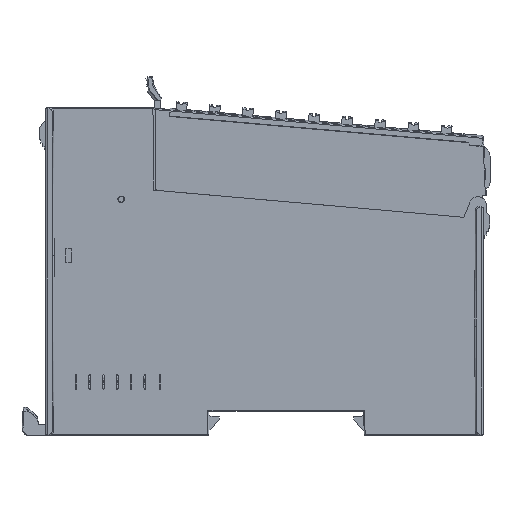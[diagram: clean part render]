
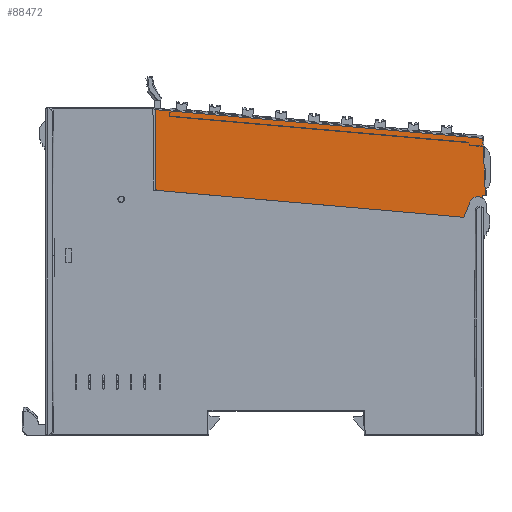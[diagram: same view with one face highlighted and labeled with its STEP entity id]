
A CAD part, left-side view. The second image highlights one B-rep face of the part: STEP entity #88472.
In plain terms, the highlighted planar face has unit normal (-1, 0, 0).
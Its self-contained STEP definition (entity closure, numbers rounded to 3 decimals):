
#9330=DIRECTION('',(0.,-0.996,-0.087));
#9331=VECTOR('',#9330,69.034);
#9332=CARTESIAN_POINT('',(-5.35,23.176,-19.081));
#9333=LINE('',#9332,#9331);
#13159=CARTESIAN_POINT('',(-5.35,-50.037,-8.93));
#13280=CARTESIAN_POINT('',(-5.35,-50.546,-20.117));
#13290=DIRECTION('',(0.,0.996,0.087));
#13291=VECTOR('',#13290,0.616);
#13292=CARTESIAN_POINT('',(-5.35,-50.546,-20.117));
#13293=LINE('',#13292,#13291);
#13294=DIRECTION('',(0.,0.,-1.));
#13295=VECTOR('',#13294,0.72);
#13296=CARTESIAN_POINT('',(-5.35,-49.933,-20.063));
#13297=LINE('',#13296,#13295);
#13298=DIRECTION('',(0.,0.375,-0.927));
#13299=VECTOR('',#13298,3.73);
#13300=CARTESIAN_POINT('',(-5.35,-46.992,-21.64));
#13301=LINE('',#13300,#13299);
#13302=DIRECTION('',(0.,0.,1.));
#13303=VECTOR('',#13302,0.095);
#13304=CARTESIAN_POINT('',(-5.35,23.176,-19.081));
#13305=LINE('',#13304,#13303);
#13306=DIRECTION('',(0.,0.996,0.087));
#13307=VECTOR('',#13306,1.78);
#13308=CARTESIAN_POINT('',(-5.35,23.176,-18.987));
#13309=LINE('',#13308,#13307);
#13310=DIRECTION('',(0.,0.,1.));
#13311=VECTOR('',#13310,18.337);
#13312=CARTESIAN_POINT('',(-5.35,24.95,-18.832));
#13313=LINE('',#13312,#13311);
#13314=DIRECTION('',(0.,-0.996,-0.087));
#13315=VECTOR('',#13314,3.308);
#13316=CARTESIAN_POINT('',(-5.35,24.95,-0.495));
#13317=LINE('',#13316,#13315);
#13318=DIRECTION('',(0.,0.087,-0.996));
#13319=VECTOR('',#13318,1.267);
#13320=CARTESIAN_POINT('',(-5.35,21.655,-0.783));
#13321=LINE('',#13320,#13319);
#13322=DIRECTION('',(0.,-0.996,-0.087));
#13323=VECTOR('',#13322,68.81);
#13324=CARTESIAN_POINT('',(-5.35,21.765,-2.045));
#13325=LINE('',#13324,#13323);
#13326=DIRECTION('',(0.,0.052,0.999));
#13327=VECTOR('',#13326,0.101);
#13328=CARTESIAN_POINT('',(-5.35,-46.783,-8.043));
#13329=LINE('',#13328,#13327);
#13330=DIRECTION('',(0.,0.996,0.087));
#13331=VECTOR('',#13330,68.696);
#13332=CARTESIAN_POINT('',(-5.35,-46.778,-7.942));
#13333=LINE('',#13332,#13331);
#13334=DIRECTION('',(0.,-0.087,0.996));
#13335=VECTOR('',#13334,1.167);
#13336=CARTESIAN_POINT('',(-5.35,21.657,-1.954));
#13337=LINE('',#13336,#13335);
#13338=CARTESIAN_POINT('',(-5.35,91.405,-21.));
#13339=DIRECTION('',(1.,0.,0.));
#13340=DIRECTION('',(0.,-0.995,0.098));
#13341=AXIS2_PLACEMENT_3D('',#13338,#13339,#13340);
#13343=DIRECTION('',(0.,0.,-1.));
#13344=VECTOR('',#13343,0.1);
#13345=CARTESIAN_POINT('',(-5.35,-46.9,-8.555));
#13346=LINE('',#13345,#13344);
#13347=DIRECTION('',(0.,-0.996,-0.087));
#13348=VECTOR('',#13347,3.149);
#13349=CARTESIAN_POINT('',(-5.35,-46.9,-8.655));
#13350=LINE('',#13349,#13348);
#13351=DIRECTION('',(0.,-0.045,-0.999));
#13352=VECTOR('',#13351,11.199);
#13353=CARTESIAN_POINT('',(-5.35,-50.037,-8.93));
#13354=LINE('',#13353,#13352);
#13368=CARTESIAN_POINT('',(-5.35,-48.8,-22.37));
#13369=DIRECTION('',(-1.,0.,0.));
#13370=DIRECTION('',(0.,-0.581,0.814));
#13371=AXIS2_PLACEMENT_3D('',#13368,#13369,#13370);
#21035=DIRECTION('',(0.,-0.996,-0.087));
#21036=VECTOR('',#21035,3.139);
#21037=CARTESIAN_POINT('',(-5.35,-46.9,-8.555));
#21038=LINE('',#21037,#21036);
#21039=CARTESIAN_POINT('',(-5.35,-50.027,-8.828));
#21741=DIRECTION('',(0.,0.996,0.087));
#21742=VECTOR('',#21741,71.69);
#21743=CARTESIAN_POINT('',(-5.35,-49.862,-7.04));
#21744=LINE('',#21743,#21742);
#51020=CARTESIAN_POINT('',(-5.35,21.657,-1.954));
#51021=VERTEX_POINT('',#51020);
#51022=CARTESIAN_POINT('',(-5.35,-46.778,-7.942));
#51023=VERTEX_POINT('',#51022);
#51787=VERTEX_POINT('',#21039);
#51818=CARTESIAN_POINT('',(-5.35,21.555,-0.792));
#51819=VERTEX_POINT('',#51818);
#51820=CARTESIAN_POINT('',(-5.35,-49.862,-7.04));
#51821=VERTEX_POINT('',#51820);
#52624=VERTEX_POINT('',#13159);
#52640=VERTEX_POINT('',#13280);
#52737=CARTESIAN_POINT('',(-5.35,24.95,-18.832));
#52738=CARTESIAN_POINT('',(-5.35,24.95,-0.495));
#52739=VERTEX_POINT('',#52737);
#52740=VERTEX_POINT('',#52738);
#52741=CARTESIAN_POINT('',(-5.35,21.655,-0.783));
#52742=VERTEX_POINT('',#52741);
#52743=CARTESIAN_POINT('',(-5.35,21.765,-2.045));
#52744=VERTEX_POINT('',#52743);
#54286=CARTESIAN_POINT('',(-5.35,23.176,-18.987));
#54287=VERTEX_POINT('',#54286);
#54292=CARTESIAN_POINT('',(-5.35,23.176,-19.081));
#54293=VERTEX_POINT('',#54292);
#54294=CARTESIAN_POINT('',(-5.35,-46.9,-8.555));
#54295=CARTESIAN_POINT('',(-5.35,-46.9,-8.655));
#54296=VERTEX_POINT('',#54294);
#54297=VERTEX_POINT('',#54295);
#54302=CARTESIAN_POINT('',(-5.35,-45.595,-25.098));
#54303=VERTEX_POINT('',#54302);
#54315=CARTESIAN_POINT('',(-5.35,-46.783,-8.043));
#54317=VERTEX_POINT('',#54315);
#55117=CARTESIAN_POINT('',(-5.35,-49.933,-20.783));
#55119=VERTEX_POINT('',#55117);
#55120=CARTESIAN_POINT('',(-5.35,-46.992,-21.64));
#55121=VERTEX_POINT('',#55120);
#55123=CARTESIAN_POINT('',(-5.35,-49.933,-20.063));
#55125=VERTEX_POINT('',#55123);
#88433=CARTESIAN_POINT('',(-5.35,21.541,-0.628));
#88434=DIRECTION('',(-1.,0.,0.));
#88435=DIRECTION('',(0.,0.087,-0.996));
#88436=AXIS2_PLACEMENT_3D('',#88433,#88434,#88435);
#88437=PLANE('',#88436);
#88438=ORIENTED_EDGE('',*,*,#88423,.T.);
#88439=ORIENTED_EDGE('',*,*,#86768,.T.);
#88441=ORIENTED_EDGE('',*,*,#88440,.T.);
#88443=ORIENTED_EDGE('',*,*,#88442,.T.);
#88444=ORIENTED_EDGE('',*,*,#82907,.F.);
#88445=ORIENTED_EDGE('',*,*,#84107,.T.);
#88446=ORIENTED_EDGE('',*,*,#84194,.T.);
#88448=ORIENTED_EDGE('',*,*,#88447,.T.);
#88450=ORIENTED_EDGE('',*,*,#88449,.T.);
#88452=ORIENTED_EDGE('',*,*,#88451,.T.);
#88453=ORIENTED_EDGE('',*,*,#58031,.T.);
#88455=ORIENTED_EDGE('',*,*,#88454,.T.);
#88457=ORIENTED_EDGE('',*,*,#88456,.T.);
#88459=ORIENTED_EDGE('',*,*,#88458,.T.);
#88461=ORIENTED_EDGE('',*,*,#88460,.F.);
#88463=ORIENTED_EDGE('',*,*,#88462,.T.);
#88465=ORIENTED_EDGE('',*,*,#88464,.F.);
#88466=ORIENTED_EDGE('',*,*,#84243,.T.);
#88467=ORIENTED_EDGE('',*,*,#88290,.T.);
#88469=ORIENTED_EDGE('',*,*,#88468,.T.);
#88470=EDGE_LOOP('',(#88438,#88439,#88441,#88443,#88444,#88445,#88446,#88448,
#88450,#88452,#88453,#88455,#88457,#88459,#88461,#88463,#88465,#88466,#88467,
#88469));
#88471=FACE_OUTER_BOUND('',#88470,.F.);
#88472=ADVANCED_FACE('',(#88471),#88437,.T.);
#13342=CIRCLE('',#13341,141.955);
#13372=CIRCLE('',#13371,1.95);
#58031=EDGE_CURVE('',#52744,#54317,#13325,.T.);
#82907=EDGE_CURVE('',#54293,#54303,#9333,.T.);
#84107=EDGE_CURVE('',#54293,#54287,#13305,.T.);
#84194=EDGE_CURVE('',#54287,#52739,#13309,.T.);
#84243=EDGE_CURVE('',#54296,#54297,#13346,.T.);
#86768=EDGE_CURVE('',#55125,#55119,#13297,.T.);
#88290=EDGE_CURVE('',#54297,#52624,#13350,.T.);
#88423=EDGE_CURVE('',#52640,#55125,#13293,.T.);
#88440=EDGE_CURVE('',#55119,#55121,#13372,.T.);
#88442=EDGE_CURVE('',#55121,#54303,#13301,.T.);
#88447=EDGE_CURVE('',#52739,#52740,#13313,.T.);
#88449=EDGE_CURVE('',#52740,#52742,#13317,.T.);
#88451=EDGE_CURVE('',#52742,#52744,#13321,.T.);
#88454=EDGE_CURVE('',#54317,#51023,#13329,.T.);
#88456=EDGE_CURVE('',#51023,#51021,#13333,.T.);
#88458=EDGE_CURVE('',#51021,#51819,#13337,.T.);
#88460=EDGE_CURVE('',#51821,#51819,#21744,.T.);
#88462=EDGE_CURVE('',#51821,#51787,#13342,.T.);
#88464=EDGE_CURVE('',#54296,#51787,#21038,.T.);
#88468=EDGE_CURVE('',#52624,#52640,#13354,.T.);
